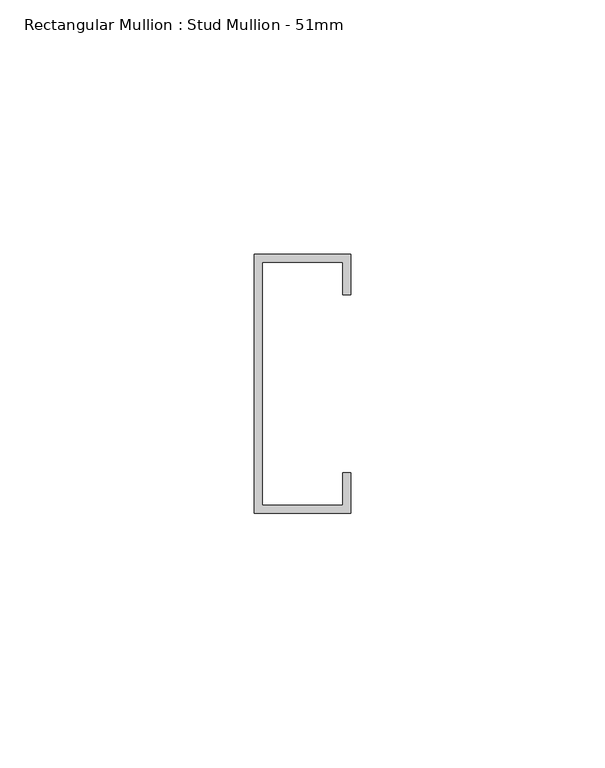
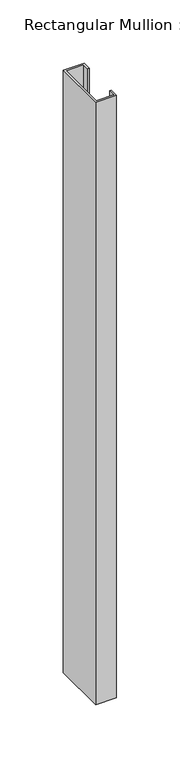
"""IFC4 building model written with IfcOpenShell, lengths in millimetres: member geometry, Rectangular Mullion : Stud Mullion - 51mm."""

from ifc_helpers import new_model, si_unit, frame, origin, place, context, project, spatial, polyline, outline, extrude, source, transform, mapped, element, save


def rectangular_mullion_stud_mullion_51mm_92998b61(model_context):
    return source(origin(), model_context, "Body", "SweptSolid", [
        extrude(outline(polyline([(0.0, 17.5), (-1.6, 17.5), (-1.6, 23.9), (-17.4, 23.9), (-17.4, -23.9), (-1.6, -23.9), (-1.6, -17.5), (0.0, -17.5), (0.0, -25.5), (-19.0, -25.5), (-19.0, 25.5), (0.0, 25.5), (0.0, 17.5)])), frame((0.0, 0.0, -581.0000003), z_axis=(0.0, 0.0, 1.0), x_axis=(1.0, 0.0, 0.0)), (0.0, 0.0, 1.0), 581.0000003),
    ])


if __name__ == "__main__":
    model = new_model("IFC4")
    model_context = context("Model", 3, world=origin())
    ifc_project = project(units=[si_unit("LENGTHUNIT", "METRE", prefix="MILLI")], contexts=[model_context])
    site = spatial("IfcSite", under=ifc_project)
    building = spatial("IfcBuilding", under=site)
    placement = place(None, origin())
    rectangular_mullion_stud_mullion_51mm_shape = rectangular_mullion_stud_mullion_51mm_92998b61(model_context)
    element("IfcMember", 1, ObjectType="Rectangular Mullion : Stud Mullion - 51mm", at=placement, inside=building, context=model_context, shape_type="MappedRepresentation", body=[
        mapped(rectangular_mullion_stud_mullion_51mm_shape, transform((0.0, 0.0, 0.0), x_axis=(1.0, 0.0, 0.0), y_axis=(0.0, 1.0, 0.0), z_axis=(0.0, 0.0, 1.0))),
    ])
    save(model, "model.ifc")
